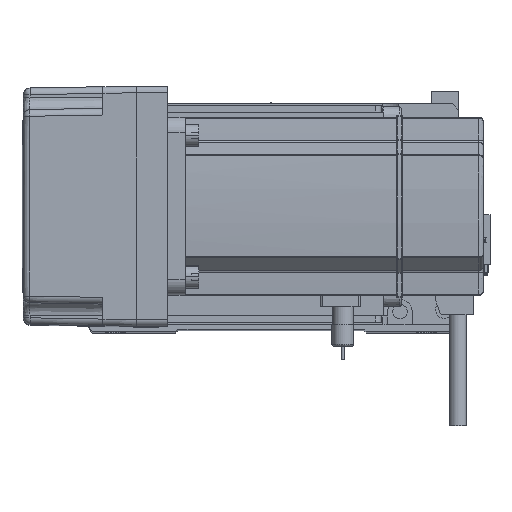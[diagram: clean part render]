
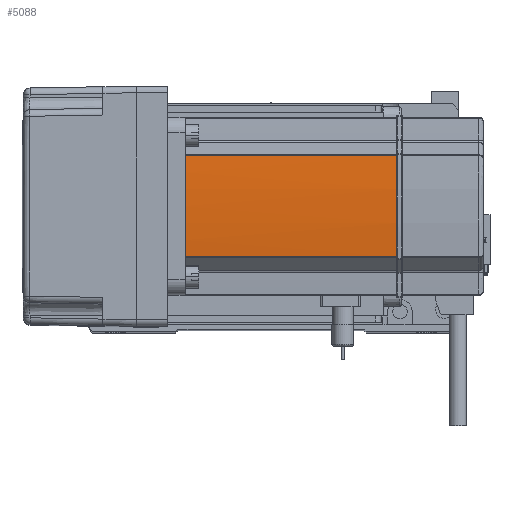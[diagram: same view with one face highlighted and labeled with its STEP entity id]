
A CAD part, top view. The second image highlights one B-rep face of the part: STEP entity #5088.
In plain terms, the highlighted cylindrical face has radius 270 mm (diameter 540 mm), a partial arc.
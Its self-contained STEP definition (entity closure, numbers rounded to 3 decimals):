
#686 = CARTESIAN_POINT ( 'NONE',  ( 39.042, 22.724, 58. ) ) ;
#1444 = CARTESIAN_POINT ( 'NONE',  ( 40., 0.127, 134. ) ) ;
#1730 = VERTEX_POINT ( 'NONE', #17535 ) ;
#3131 = CARTESIAN_POINT ( 'NONE',  ( 40., -0.042, 134. ) ) ;
#3257 = EDGE_CURVE ( 'NONE', #24648, #26526, #16853, .T. ) ;
#3386 = EDGE_CURVE ( 'NONE', #26526, #1730, #18912, .T. ) ;
#5037 = AXIS2_PLACEMENT_3D ( 'NONE', #14862, #36249, #27638 ) ;
#5088 = ADVANCED_FACE ( 'NONE', ( #45510 ), #11141, .T. ) ;
#6295 = DIRECTION ( 'NONE',  ( 0., 0., 1. ) ) ;
#6591 = DIRECTION ( 'NONE',  ( 0., 0., -1. ) ) ;
#7513 = CARTESIAN_POINT ( 'NONE',  ( 40., -0.127, 134. ) ) ;
#7589 = CARTESIAN_POINT ( 'NONE',  ( 39.042, 22.724, 134. ) ) ;
#8806 = B_SPLINE_CURVE_WITH_KNOTS ( 'NONE', 3,
 ( #7513, #3131, #37566, #54602 ),
 .UNSPECIFIED., .F., .F.,
 ( 4, 4 ),
 ( 0., 1. ),
 .UNSPECIFIED. ) ;
#9321 = DIRECTION ( 'NONE',  ( -1., 0., 0. ) ) ;
#11005 = VERTEX_POINT ( 'NONE', #15038 ) ;
#11079 = DIRECTION ( 'NONE',  ( -1., 0., 0. ) ) ;
#11141 = CYLINDRICAL_SURFACE ( 'NONE', #5037, 270. ) ;
#12520 = AXIS2_PLACEMENT_3D ( 'NONE', #12588, #37971, #33445 ) ;
#12588 = CARTESIAN_POINT ( 'NONE',  ( -230., 0., 134. ) ) ;
#12622 = ORIENTED_EDGE ( 'NONE', *, *, #53992, .T. ) ;
#13066 = DIRECTION ( 'NONE',  ( 0., 0., -1. ) ) ;
#13262 = CARTESIAN_POINT ( 'NONE',  ( -230., 0., 39. ) ) ;
#14862 = CARTESIAN_POINT ( 'NONE',  ( -230., 0., 58. ) ) ;
#15038 = CARTESIAN_POINT ( 'NONE',  ( 39.042, 22.724, 39. ) ) ;
#15880 = EDGE_CURVE ( 'NONE', #24648, #31411, #8806, .T. ) ;
#16509 = EDGE_CURVE ( 'NONE', #11005, #1730, #19856, .T. ) ;
#16853 = CIRCLE ( 'NONE', #12520, 270. ) ;
#17200 = CARTESIAN_POINT ( 'NONE',  ( 39.042, -22.724, 134. ) ) ;
#17535 = CARTESIAN_POINT ( 'NONE',  ( 39.042, -22.724, 39. ) ) ;
#18912 = LINE ( 'NONE', #43241, #49159 ) ;
#19219 = LINE ( 'NONE', #686, #31993 ) ;
#19550 = CARTESIAN_POINT ( 'NONE',  ( -230., 0., 134. ) ) ;
#19856 = CIRCLE ( 'NONE', #43987, 270. ) ;
#22899 = CARTESIAN_POINT ( 'NONE',  ( 40., -0.127, 134. ) ) ;
#23288 = ORIENTED_EDGE ( 'NONE', *, *, #3257, .T. ) ;
#24648 = VERTEX_POINT ( 'NONE', #22899 ) ;
#26526 = VERTEX_POINT ( 'NONE', #17200 ) ;
#27638 = DIRECTION ( 'NONE',  ( -1., 0., 0. ) ) ;
#31411 = VERTEX_POINT ( 'NONE', #1444 ) ;
#31919 = EDGE_CURVE ( 'NONE', #45065, #31411, #39043, .T. ) ;
#31993 = VECTOR ( 'NONE', #6295, 1000. ) ;
#33445 = DIRECTION ( 'NONE',  ( -1., 0., 0. ) ) ;
#36157 = ORIENTED_EDGE ( 'NONE', *, *, #3386, .T. ) ;
#36249 = DIRECTION ( 'NONE',  ( 0., 0., -1. ) ) ;
#37036 = AXIS2_PLACEMENT_3D ( 'NONE', #19550, #6591, #11079 ) ;
#37566 = CARTESIAN_POINT ( 'NONE',  ( 40., 0.042, 134. ) ) ;
#37971 = DIRECTION ( 'NONE',  ( 0., 0., -1. ) ) ;
#39043 = CIRCLE ( 'NONE', #37036, 270. ) ;
#39265 = DIRECTION ( 'NONE',  ( 0., 0., -1. ) ) ;
#41653 = EDGE_LOOP ( 'NONE', ( #36157, #51143, #12622, #54092, #48996, #23288 ) ) ;
#43241 = CARTESIAN_POINT ( 'NONE',  ( 39.042, -22.724, 58. ) ) ;
#43987 = AXIS2_PLACEMENT_3D ( 'NONE', #13262, #13066, #9321 ) ;
#45065 = VERTEX_POINT ( 'NONE', #7589 ) ;
#45510 = FACE_OUTER_BOUND ( 'NONE', #41653, .T. ) ;
#48996 = ORIENTED_EDGE ( 'NONE', *, *, #15880, .F. ) ;
#49159 = VECTOR ( 'NONE', #39265, 1000. ) ;
#51143 = ORIENTED_EDGE ( 'NONE', *, *, #16509, .F. ) ;
#53992 = EDGE_CURVE ( 'NONE', #11005, #45065, #19219, .T. ) ;
#54092 = ORIENTED_EDGE ( 'NONE', *, *, #31919, .T. ) ;
#54602 = CARTESIAN_POINT ( 'NONE',  ( 40., 0.127, 134. ) ) ;
